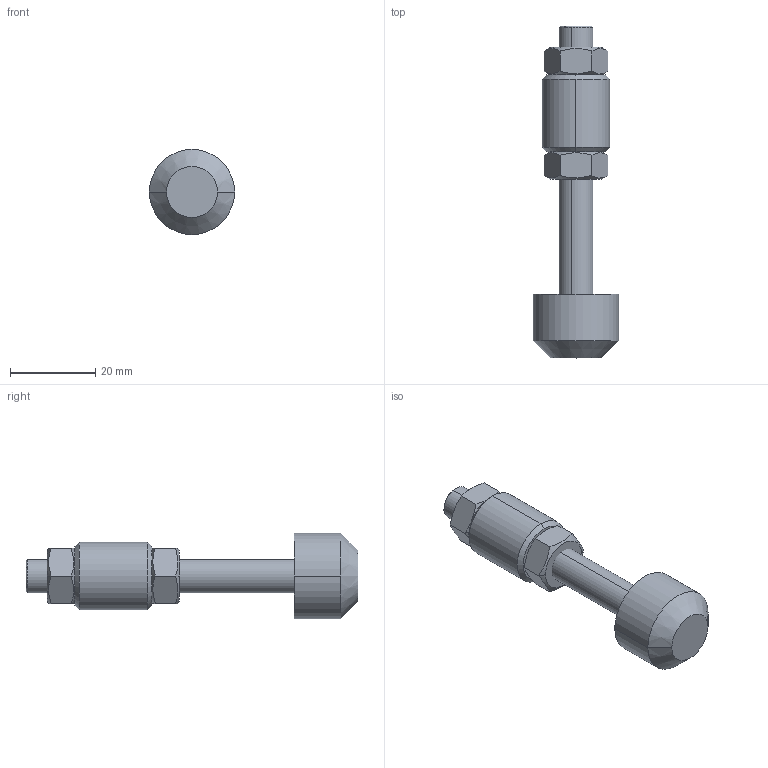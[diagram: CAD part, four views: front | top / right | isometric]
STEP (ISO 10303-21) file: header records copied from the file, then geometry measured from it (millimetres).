
FILE_DESCRIPTION (( 'STEP AP203' ), '1' );
FILE_NAME ('BRB-M8.STEP', '2016-07-25T18:04:46', ( 'Ricardo' ), ( '' ), 'SwSTEP 2.0', 'SolidWorks 2015', '' );
FILE_SCHEMA (( 'CONFIG_CONTROL_DESIGN' ));
Length unit declared in the file: millimetre
Products named in the file (5): 20.20014; 11.50002; 20.20004; BRB-M8; 20.20010
Assembly tree (5 placements, depth 2):
  BRB-M8
    20.20010
    20.20014
    11.50002  x2
    20.20004
Bounding box: 20 x 78 x 20 mm (x, y, z)
Volume: 11237.6 mm3; surface area: 6254 mm2
Topology: 5 solids, 5 shells, 68 faces, 150 edges, 91 vertices
Faces by surface type: cone 32, plane 22, cylinder 14
Entity records: 1989 total; most frequent: CARTESIAN_POINT 349, DIRECTION 258, ORIENTED_EDGE 208, AXIS2_PLACEMENT_3D 108, EDGE_CURVE 104, VERTEX_POINT 63, EDGE_LOOP 55, FACE_OUTER_BOUND 50
